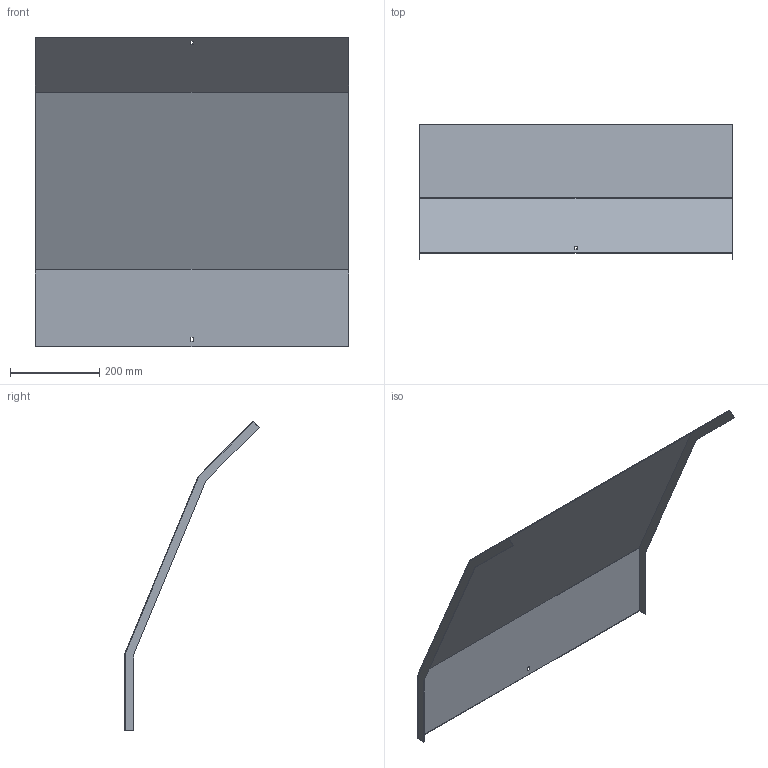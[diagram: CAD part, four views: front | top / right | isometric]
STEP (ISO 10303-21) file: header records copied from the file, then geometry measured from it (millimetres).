
FILE_DESCRIPTION (( 'STEP AP214' ), '1' );
FILE_NAME ('34N5D700.step', '2025-02-21T10:33:23', ( '' ), ( '' ), 'SwSTEP 2.0', 'SolidWorks 2023', '' );
FILE_SCHEMA (( 'AUTOMOTIVE_DESIGN' ));
Length unit declared in the file: millimetre
Products named in the file (1): 34N5D700
Bounding box: 703 x 301.7 x 694.23 mm (x, y, z)
Volume: 862204 mm3; surface area: 1154206.1 mm2
Topology: 1 solids, 1 shells, 26 faces, 72 edges, 48 vertices
Faces by surface type: plane 26
Entity records: 847 total; most frequent: CARTESIAN_POINT 147, ORIENTED_EDGE 144, DIRECTION 126, EDGE_CURVE 72, VECTOR 72, LINE 72, VERTEX_POINT 48, EDGE_LOOP 30
